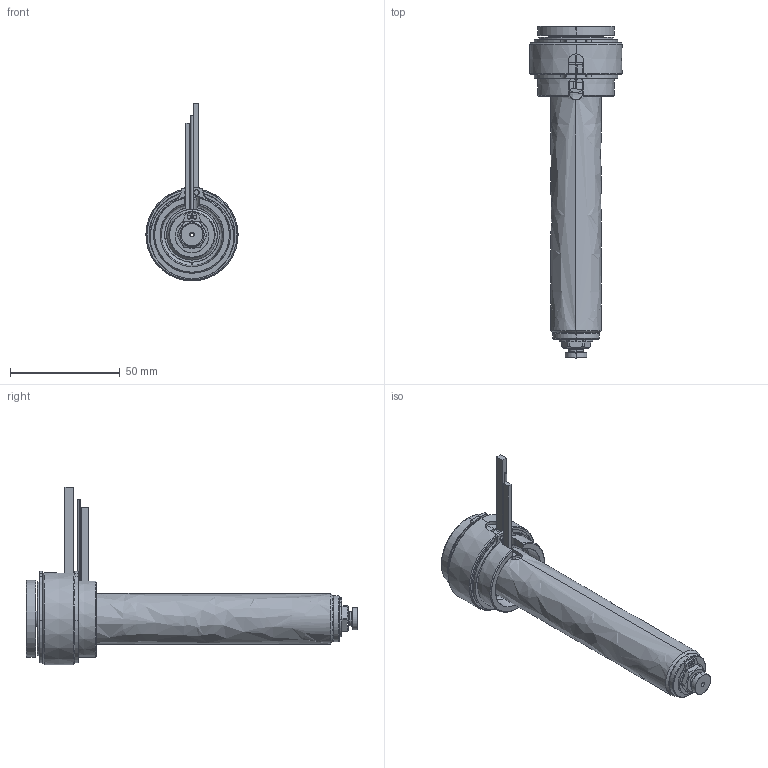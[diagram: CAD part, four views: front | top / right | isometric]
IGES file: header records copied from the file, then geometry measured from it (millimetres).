
Start section: SolidWorks IGES file using analytic representation for surfaces
Global section: file name: C:\Users\luca.EMPAD\Desktop\TEM\UGBE3503-S-A-3 [Ød-1.5 P-0 ØC-7.0].IGS; native system: SolidWorks 2012; preprocessor: SolidWorks 2012; author: luca; date: 120330.140522; units: millimetre
Bounding box: 42 x 151 x 80.9 mm (x, y, z)
Surface area: 37687.1 mm2 (no closed solid volume)
Topology: 0 solids, 0 shells, 188 faces, 3522 edges, 3522 vertices
Faces by surface type: revolution 119, bspline 69
